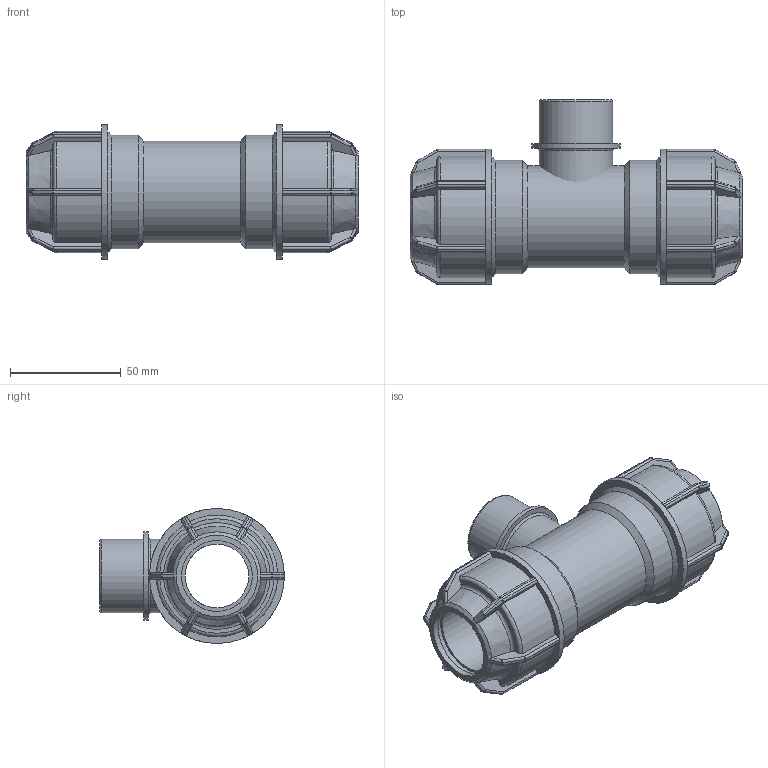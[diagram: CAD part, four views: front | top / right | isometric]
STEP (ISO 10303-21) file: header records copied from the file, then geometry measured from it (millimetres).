
FILE_DESCRIPTION(/* description */ ('PLASSON L.14 TEE MALE ADAPTOR (SILVER) 32-1"-32'),/* implementation_level */ '2;1');
FILE_NAME(/* name */ 'C:\Dropbox\KIMPROJECTS-Inventor\99-16-3568-Processing\Silver+MF ISRAEL\148400\148400032010.ipt.stp',/* time_stamp */ '2018-04-09T13:05:24+03:00',/* author */ ('KIM'),/* organization */ (''),/* preprocessor_version */ 'ST-DEVELOPER v15.6',/* originating_system */ 'Autodesk Inventor 2015',/* authorisation */ '');
FILE_SCHEMA (('AUTOMOTIVE_DESIGN { 1 0 10303 214 3 1 1 }'));
Length unit declared in the file: millimetre
Products named in the file (1): 148400032010
Bounding box: 150 x 83.5 x 61 mm (x, y, z)
Volume: 193892.4 mm3; surface area: 55380.9 mm2
Topology: 2 solids, 2 shells, 418 faces, 1004 edges, 576 vertices
Faces by surface type: plane 198, cylinder 124, sphere 48, torus 30, cone 18
Full cylindrical faces by diameter (mm): 25.6 x2, 28.8 x1, 32 x4, 33.249 x2, 39.899 x1, 46.08 x1, 51.2 x2, 61 x2
Entity records: 12229 total; most frequent: CARTESIAN_POINT 3273, DIRECTION 1882, ORIENTED_EDGE 1834, EDGE_CURVE 917, AXIS2_PLACEMENT_3D 760, VERTEX_POINT 543, EDGE_LOOP 454, FACE_OUTER_BOUND 413
